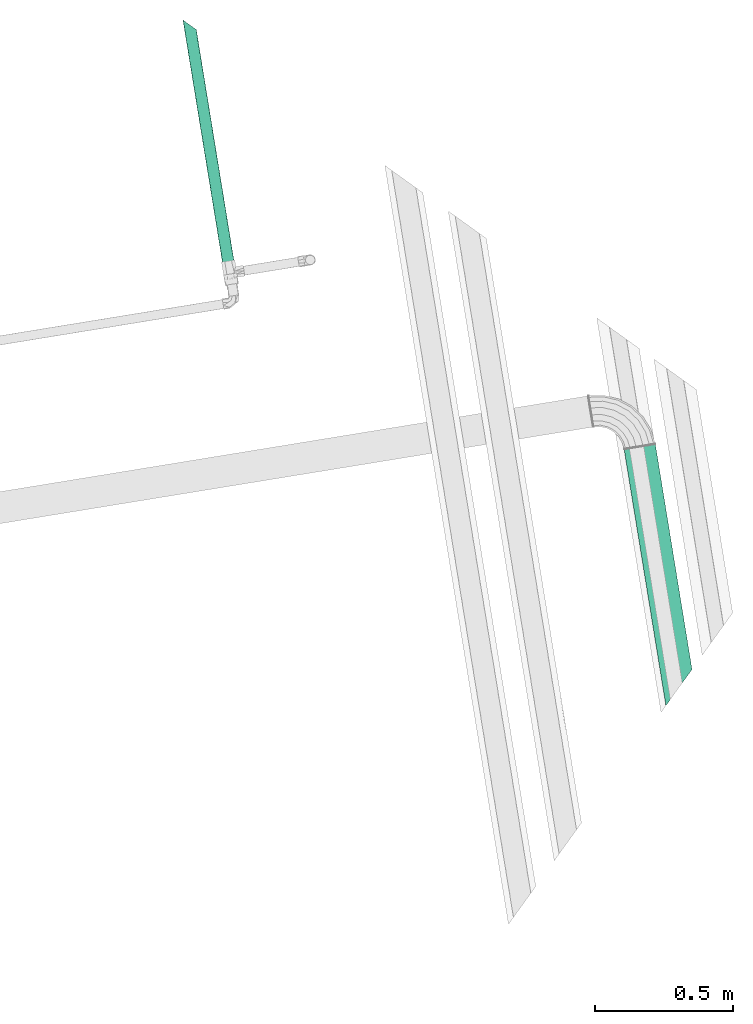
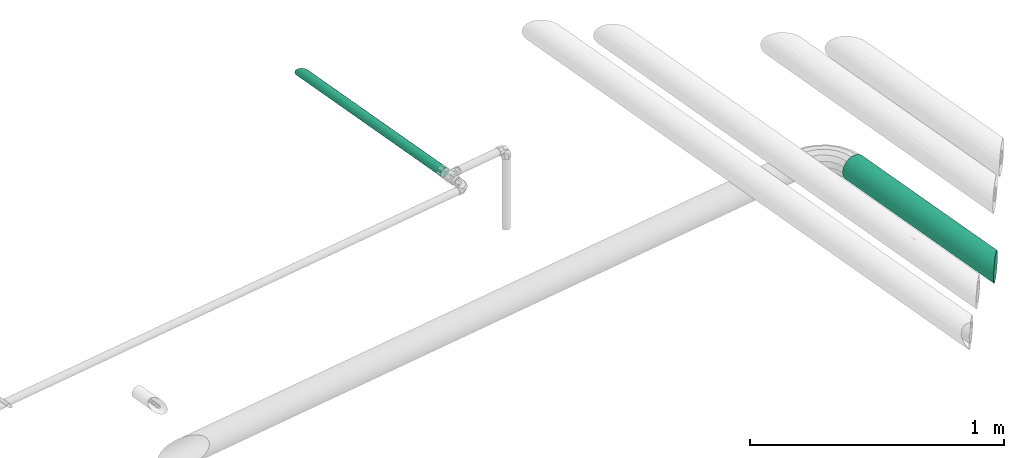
# One storey, part 45 of 46: 2 flow segments.
"""IFC2X3 building model written with IfcOpenShell, lengths in millimetres."""

from ifc_helpers import new_model, entity, si_unit, converted_unit, derived_unit, direction, frame, origin, origin_with_axes, place, context, subcontext, project, spatial, faceted_brep, material, type_object, element, save


model = new_model("IFC2X3")

# Units and contexts
model_context = context("Model", 3, precision=0.01, world=origin(), true_north=direction((6.12323399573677e-17, 1.0)))
plan_context = context("Plan", 3, precision=1e-05, world=origin_with_axes())
body_context = subcontext(model_context, "Body", "Model", "MODEL_VIEW")
ifc_project = project(units=[converted_unit("PLANEANGLEUNIT", "DEGREE", entity("IfcPositiveLengthMeasure", 0.0174532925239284), si_unit("PLANEANGLEUNIT", "RADIAN"), dimensions=[0, 0, 0, 0, 0, 0, 0]), si_unit("AREAUNIT", "SQUARE_METRE"), si_unit("LENGTHUNIT", "METRE", prefix="MILLI"), si_unit("MASSUNIT", "GRAM", prefix="KILO"), si_unit("POWERUNIT", "WATT"), si_unit("PRESSUREUNIT", "PASCAL", prefix="KILO"), si_unit("FORCEUNIT", "NEWTON", prefix="KILO"), si_unit("ELECTRICVOLTAGEUNIT", "VOLT"), si_unit("ELECTRICCURRENTUNIT", "AMPERE"), si_unit("THERMODYNAMICTEMPERATUREUNIT", "DEGREE_CELSIUS"), si_unit("TIMEUNIT", "SECOND"), si_unit("VOLUMEUNIT", "CUBIC_METRE"), derived_unit("LINEARVELOCITYUNIT", [(si_unit("LENGTHUNIT", "METRE"), 1), (si_unit("TIMEUNIT", "SECOND"), -1)]), derived_unit("VOLUMETRICFLOWRATEUNIT", [(si_unit("VOLUMEUNIT", "CUBIC_METRE"), 1), (si_unit("TIMEUNIT", "SECOND"), -1)]), derived_unit("THERMALTRANSMITTANCEUNIT", [(si_unit("POWERUNIT", "WATT"), 1), (si_unit("THERMODYNAMICTEMPERATUREUNIT", "KELVIN"), -1), (si_unit("AREAUNIT", "SQUARE_METRE"), -1)]), derived_unit("SOUNDPRESSUREUNIT", [(si_unit("PRESSUREUNIT", "PASCAL"), 1)])], contexts=[model_context, plan_context])

# Site, building, storey
site_placement = place(None, frame((-3.09682673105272e-06, 1.93776733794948e-05, 0.0), z_axis=(0.0, 0.0, 1.0), x_axis=(-0.160806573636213, 0.986985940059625, 0.0)))
site = spatial("IfcSite", under=ifc_project, at=site_placement, Name="Default", CompositionType="ELEMENT")
building_placement = place(site_placement, frame((0.0, 0.0, 0.0), z_axis=(0.0, 0.0, 1.0), x_axis=(1.0, -2.77555756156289e-17, 0.0)))
building = spatial("IfcBuilding", under=site, at=building_placement, Name="Bygning (endres i Project Information)", CompositionType="ELEMENT")
storey_placement = place(building_placement, frame((0.0, 0.0, 51360.0000000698), z_axis=(0.0, 0.0, 1.0), x_axis=(1.0, -2.77555756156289e-17, 0.0)))
storey = spatial("IfcBuildingStorey", under=building, at=storey_placement, Name="H01-Nivå D+0,36", CompositionType="ELEMENT", Elevation=51360.0000000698)

# Flow segments
ifc_material = material(Name="3320.001")
pipe_segment_type = type_object("IfcPipeSegmentType", Name="Pipe Types:Stålrør sveist og gjenget", PredefinedType="NOTDEFINED", material=ifc_material)
flow_segment_1_placement = place(storey_placement, frame((0.0, 0.0, 0.0), z_axis=(0.0, 0.0, 1.0), x_axis=(1.0, -2.77555756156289e-17, 0.0)))
element("IfcFlowSegment", 1, at=flow_segment_1_placement, inside=storey, type_object=pipe_segment_type, Name="Pipe Types:Stålrør sveist og gjenget", ObjectType="Pipe Types:Stålrør sveist og gjenget", context=body_context, shape_type="Brep", body=[
    faceted_brep([(1007353.57007153, -357144.361475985, 3299.95000040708), (1007352.70183459, -357143.493239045, 3309.87399404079), (1008178.45605167, -357143.493239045, 3309.87399404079), (1008178.45605167, -357144.361475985, 3299.95000040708), (1007352.70183459, -357143.493239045, 3290.02600677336), (1008178.45605167, -357143.493239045, 3290.02600677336), (1007350.12350471, -357140.914909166, 3280.40354866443), (1008178.45605167, -357140.914909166, 3280.40354866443), (1007345.91342314, -357136.704827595, 3271.37499960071), (1008178.45605167, -357136.704827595, 3271.37499960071), (1007340.19951107, -357130.990915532, 3263.21468747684), (1008178.45605167, -357130.990915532, 3263.21468747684), (1007333.15538284, -357123.946787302, 3256.17055924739), (1008178.45605167, -357123.946787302, 3256.17055924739), (1007324.99507072, -357115.786475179, 3250.45664718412), (1008178.45605167, -357115.786475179, 3250.45664718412), (1007315.96652166, -357106.757926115, 3246.24656561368), (1008178.45605167, -357106.757926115, 3246.24656561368), (1007306.34406355, -357097.135468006, 3243.66823573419), (1008178.45605167, -357097.135468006, 3243.66823573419), (1007296.42006991, -357087.211474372, 3242.79999879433), (1008178.45605167, -357087.211474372, 3242.79999879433), (1007286.49607628, -357077.287480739, 3243.66823573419), (1008178.45605167, -357077.287480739, 3243.66823573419), (1007276.87361817, -357067.66502263, 3246.24656561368), (1008178.45605167, -357067.66502263, 3246.24656561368), (1007267.84506911, -357058.636473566, 3250.45664718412), (1008178.45605167, -357058.636473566, 3250.45664718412), (1007259.68475698, -357050.476161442, 3256.17055924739), (1008178.45605167, -357050.476161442, 3256.17055924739), (1007252.64062875, -357043.432033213, 3263.21468747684), (1008178.45605167, -357043.432033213, 3263.21468747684), (1007246.92671669, -357037.718121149, 3271.37499960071), (1008178.45605167, -357037.718121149, 3271.37499960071), (1007242.71663512, -357033.508039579, 3280.40354866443), (1008178.45605167, -357033.508039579, 3280.40354866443), (1007240.13830524, -357030.929709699, 3290.02600677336), (1008178.45605167, -357030.929709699, 3290.02600677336), (1007239.2700683, -357030.06147276, 3299.95000040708), (1008178.45605167, -357030.06147276, 3299.95000040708), (1007240.13830524, -357030.929709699, 3309.87399404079), (1008178.45605167, -357030.929709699, 3309.87399404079), (1007242.71663512, -357033.508039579, 3319.49645214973), (1008178.45605167, -357033.508039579, 3319.49645214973), (1007246.92671669, -357037.718121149, 3328.52500121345), (1008178.45605167, -357037.718121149, 3328.52500121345), (1007252.64062875, -357043.432033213, 3336.68531333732), (1008178.45605167, -357043.432033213, 3336.68531333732), (1007259.68475698, -357050.476161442, 3343.72944156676), (1008178.45605167, -357050.476161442, 3343.72944156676), (1007267.84506911, -357058.636473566, 3349.44335363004), (1008178.45605167, -357058.636473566, 3349.44335363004), (1007276.87361817, -357067.66502263, 3353.65343520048), (1008178.45605167, -357067.66502263, 3353.65343520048), (1007286.49607628, -357077.287480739, 3356.23176507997), (1008178.45605167, -357077.287480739, 3356.23176507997), (1007296.42006991, -357087.211474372, 3357.10000201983), (1008178.45605167, -357087.211474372, 3357.10000201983), (1007306.34406355, -357097.135468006, 3356.23176507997), (1008178.45605167, -357097.135468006, 3356.23176507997), (1007315.96652166, -357106.757926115, 3353.65343520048), (1008178.45605167, -357106.757926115, 3353.65343520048), (1007324.99507072, -357115.786475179, 3349.44335363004), (1008178.45605167, -357115.786475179, 3349.44335363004), (1007333.15538284, -357123.946787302, 3343.72944156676), (1008178.45605167, -357123.946787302, 3343.72944156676), (1007340.19951107, -357130.990915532, 3336.68531333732), (1008178.45605167, -357130.990915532, 3336.68531333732), (1007345.91342314, -357136.704827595, 3328.52500121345), (1008178.45605167, -357136.704827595, 3328.52500121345), (1007350.12350471, -357140.914909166, 3319.49645214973), (1008178.45605167, -357140.914909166, 3319.49645214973)], [[[0, 1, 2, 3]], [[4, 0, 3, 5]], [[6, 4, 5, 7]], [[8, 6, 7, 9]], [[10, 8, 9, 11]], [[12, 10, 11, 13]], [[14, 12, 13, 15]], [[16, 14, 15, 17]], [[18, 16, 17, 19]], [[20, 18, 19, 21]], [[22, 20, 21, 23]], [[24, 22, 23, 25]], [[26, 24, 25, 27]], [[28, 26, 27, 29]], [[30, 28, 29, 31]], [[32, 30, 31, 33]], [[34, 32, 33, 35]], [[36, 34, 35, 37]], [[38, 36, 37, 39]], [[40, 38, 39, 41]], [[42, 40, 41, 43]], [[44, 42, 43, 45]], [[46, 44, 45, 47]], [[48, 46, 47, 49]], [[50, 48, 49, 51]], [[52, 50, 51, 53]], [[54, 52, 53, 55]], [[56, 54, 55, 57]], [[58, 56, 57, 59]], [[60, 58, 59, 61]], [[62, 60, 61, 63]], [[64, 62, 63, 65]], [[66, 64, 65, 67]], [[68, 66, 67, 69]], [[70, 68, 69, 71]], [[1, 70, 71, 2]], [[3, 2, 71, 69, 67, 65, 63, 61, 59, 57, 55, 53, 51, 49, 47, 45, 43, 41, 39, 37, 35, 33, 31, 29, 27, 25, 23, 21, 19, 17, 15, 13, 11, 9, 7, 5]], [[4, 6, 8, 10, 12, 14, 16, 18, 20, 22, 24, 26, 28, 30, 32, 34, 36, 38, 40, 42, 44, 46, 48, 50, 52, 54, 56, 58, 60, 62, 64, 66, 68, 70, 1, 0]]], orient=[[False], [False], [False], [False], [False], [False], [False], [False], [False], [False], [False], [False], [False], [False], [False], [False], [False], [False], [False], [False], [False], [False], [False], [False], [False], [False], [False], [False], [False], [False], [False], [False], [False], [False], [False], [False], [False], [False]]),
])
flow_segment_2_placement = place(storey_placement, frame((0.0, 0.0, 0.0), z_axis=(0.0, 0.0, 1.0), x_axis=(1.0, -2.77555756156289e-17, 0.0)))
element("IfcFlowSegment", 2, at=flow_segment_2_placement, inside=storey, type_object=pipe_segment_type, Name="Pipe Types:Stålrør sveist og gjenget", ObjectType="Pipe Types:Stålrør sveist og gjenget", context=body_context, shape_type="Brep", body=[
    faceted_brep([(1009967.4727558, -355705.169282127, 3396.31865849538), (1009967.79483145, -355704.847206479, 3400.0), (1009060.03704419, -355704.847206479, 3400.0), (1009060.03704419, -355705.169282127, 3396.31865849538), (1009967.4727558, -355705.169282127, 3403.68134150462), (1009060.03704419, -355705.169282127, 3403.68134150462), (1009966.51631496, -355706.125722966, 3407.25082731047), (1009060.03704419, -355706.125722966, 3407.25082731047), (1009964.9545699, -355707.687468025, 3410.60000039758), (1009060.03704419, -355707.687468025, 3410.60000039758), (1009962.83497346, -355709.807064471, 3413.62709783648), (1009060.03704419, -355709.807064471, 3413.62709783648), (1009960.22192849, -355712.420109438, 3416.24014280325), (1009060.03704419, -355712.420109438, 3416.24014280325), (1009957.19483105, -355715.447206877, 3418.35973924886), (1009060.03704419, -355715.447206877, 3418.35973924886), (1009953.84565796, -355718.796379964, 3419.92148430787), (1009060.03704419, -355718.796379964, 3419.92148430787), (1009950.27617216, -355722.36586577, 3420.87792514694), (1009060.03704419, -355722.36586577, 3420.87792514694), (1009946.59483065, -355726.047207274, 3421.20000079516), (1009060.03704419, -355726.047207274, 3421.20000079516), (1009942.91348915, -355729.728548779, 3420.87792514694), (1009060.03704419, -355729.728548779, 3420.87792514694), (1009939.34400334, -355733.298034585, 3419.92148430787), (1009060.03704419, -355733.298034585, 3419.92148430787), (1009935.99483026, -355736.647207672, 3418.35973924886), (1009060.03704419, -355736.647207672, 3418.35973924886), (1009932.96773282, -355739.674305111, 3416.24014280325), (1009060.03704419, -355739.674305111, 3416.24014280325), (1009930.35468785, -355742.287350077, 3413.62709783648), (1009060.03704419, -355742.287350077, 3413.62709783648), (1009928.23509141, -355744.406946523, 3410.60000039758), (1009060.03704419, -355744.406946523, 3410.60000039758), (1009926.67334635, -355745.968691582, 3407.25082731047), (1009060.03704419, -355745.968691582, 3407.25082731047), (1009925.71690551, -355746.925132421, 3403.68134150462), (1009060.03704419, -355746.925132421, 3403.68134150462), (1009925.39482986, -355747.247208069, 3400.0), (1009060.03704419, -355747.247208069, 3400.0), (1009925.71690551, -355746.925132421, 3396.31865849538), (1009060.03704419, -355746.925132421, 3396.31865849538), (1009926.67334635, -355745.968691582, 3392.74917268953), (1009060.03704419, -355745.968691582, 3392.74917268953), (1009928.23509141, -355744.406946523, 3389.39999960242), (1009060.03704419, -355744.406946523, 3389.39999960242), (1009930.35468785, -355742.287350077, 3386.37290216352), (1009060.03704419, -355742.287350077, 3386.37290216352), (1009932.96773282, -355739.674305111, 3383.75985719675), (1009060.03704419, -355739.674305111, 3383.75985719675), (1009935.99483026, -355736.647207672, 3381.64026075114), (1009060.03704419, -355736.647207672, 3381.64026075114), (1009939.34400334, -355733.298034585, 3380.07851569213), (1009060.03704419, -355733.298034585, 3380.07851569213), (1009942.91348915, -355729.728548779, 3379.12207485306), (1009060.03704419, -355729.728548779, 3379.12207485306), (1009946.59483065, -355726.047207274, 3378.79999920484), (1009060.03704419, -355726.047207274, 3378.79999920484), (1009950.27617216, -355722.36586577, 3379.12207485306), (1009060.03704419, -355722.36586577, 3379.12207485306), (1009953.84565796, -355718.796379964, 3380.07851569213), (1009060.03704419, -355718.796379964, 3380.07851569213), (1009957.19483105, -355715.447206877, 3381.64026075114), (1009060.03704419, -355715.447206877, 3381.64026075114), (1009960.22192849, -355712.420109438, 3383.75985719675), (1009060.03704419, -355712.420109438, 3383.75985719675), (1009962.83497346, -355709.807064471, 3386.37290216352), (1009060.03704419, -355709.807064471, 3386.37290216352), (1009964.9545699, -355707.687468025, 3389.39999960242), (1009060.03704419, -355707.687468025, 3389.39999960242), (1009966.51631496, -355706.125722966, 3392.74917268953), (1009060.03704419, -355706.125722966, 3392.74917268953)], [[[0, 1, 2, 3]], [[1, 4, 5, 2]], [[4, 6, 7, 5]], [[6, 8, 9, 7]], [[8, 10, 11, 9]], [[10, 12, 13, 11]], [[12, 14, 15, 13]], [[14, 16, 17, 15]], [[16, 18, 19, 17]], [[18, 20, 21, 19]], [[20, 22, 23, 21]], [[22, 24, 25, 23]], [[24, 26, 27, 25]], [[26, 28, 29, 27]], [[28, 30, 31, 29]], [[30, 32, 33, 31]], [[32, 34, 35, 33]], [[34, 36, 37, 35]], [[36, 38, 39, 37]], [[38, 40, 41, 39]], [[40, 42, 43, 41]], [[42, 44, 45, 43]], [[44, 46, 47, 45]], [[46, 48, 49, 47]], [[48, 50, 51, 49]], [[50, 52, 53, 51]], [[52, 54, 55, 53]], [[54, 56, 57, 55]], [[56, 58, 59, 57]], [[58, 60, 61, 59]], [[60, 62, 63, 61]], [[62, 64, 65, 63]], [[64, 66, 67, 65]], [[66, 68, 69, 67]], [[68, 70, 71, 69]], [[70, 0, 3, 71]], [[3, 2, 5, 7, 9, 11, 13, 15, 17, 19, 21, 23, 25, 27, 29, 31, 33, 35, 37, 39, 41, 43, 45, 47, 49, 51, 53, 55, 57, 59, 61, 63, 65, 67, 69, 71]], [[70, 68, 66, 64, 62, 60, 58, 56, 54, 52, 50, 48, 46, 44, 42, 40, 38, 36, 34, 32, 30, 28, 26, 24, 22, 20, 18, 16, 14, 12, 10, 8, 6, 4, 1, 0]]], orient=[[False], [False], [False], [False], [False], [False], [False], [False], [False], [False], [False], [False], [False], [False], [False], [False], [False], [False], [False], [False], [False], [False], [False], [False], [False], [False], [False], [False], [False], [False], [False], [False], [False], [False], [False], [False], [False], [False]]),
])

save(model, "model.ifc")
